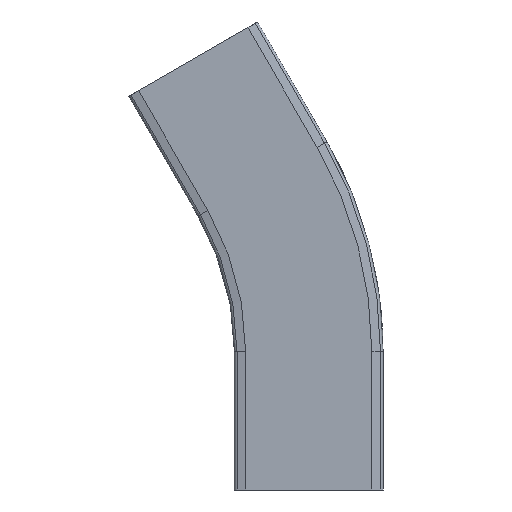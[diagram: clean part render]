
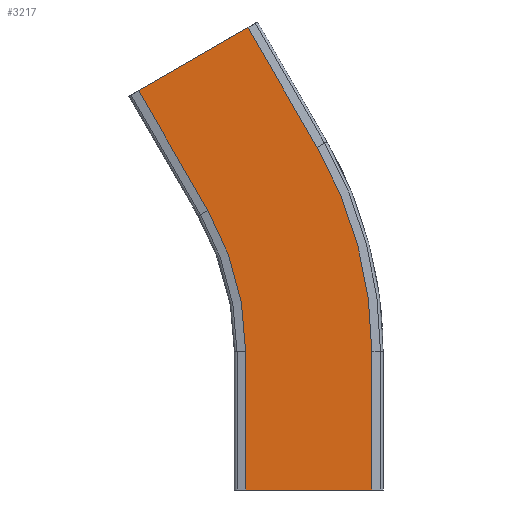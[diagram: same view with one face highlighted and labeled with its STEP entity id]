
A CAD part, front view. The second image highlights one B-rep face of the part: STEP entity #3217.
In plain terms, the highlighted planar face has unit normal (0, -1, 0).
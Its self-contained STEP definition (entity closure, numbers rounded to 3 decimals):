
#327=FACE_OUTER_BOUND('',#499,.T.);
#499=EDGE_LOOP('',(#2925,#2926,#2927,#2928,#2929,#2930,#2931,#2932));
#577=CIRCLE('',#3458,236.5);
#580=CIRCLE('',#3464,163.5);
#894=LINE('',#5553,#1236);
#899=LINE('',#5562,#1241);
#901=LINE('',#5567,#1243);
#916=LINE('',#5607,#1258);
#921=LINE('',#5618,#1263);
#922=LINE('',#5620,#1264);
#1236=VECTOR('',#4203,10.);
#1241=VECTOR('',#4210,10.);
#1243=VECTOR('',#4214,10.);
#1258=VECTOR('',#4255,10.);
#1263=VECTOR('',#4268,10.);
#1264=VECTOR('',#4271,10.);
#1544=VERTEX_POINT('',#5550);
#1545=VERTEX_POINT('',#5552);
#1548=VERTEX_POINT('',#5559);
#1549=VERTEX_POINT('',#5564);
#1559=VERTEX_POINT('',#5590);
#1561=VERTEX_POINT('',#5600);
#1562=VERTEX_POINT('',#5605);
#1564=VERTEX_POINT('',#5616);
#1988=EDGE_CURVE('',#1545,#1544,#894,.T.);
#1993=EDGE_CURVE('',#1545,#1548,#899,.T.);
#1995=EDGE_CURVE('',#1544,#1549,#901,.T.);
#2008=EDGE_CURVE('',#1549,#1559,#577,.T.);
#2014=EDGE_CURVE('',#1548,#1561,#580,.T.);
#2016=EDGE_CURVE('',#1559,#1562,#916,.T.);
#2021=EDGE_CURVE('',#1561,#1564,#921,.T.);
#2022=EDGE_CURVE('',#1562,#1564,#922,.T.);
#2925=ORIENTED_EDGE('',*,*,#2022,.T.);
#2926=ORIENTED_EDGE('',*,*,#2021,.F.);
#2927=ORIENTED_EDGE('',*,*,#2014,.F.);
#2928=ORIENTED_EDGE('',*,*,#1993,.F.);
#2929=ORIENTED_EDGE('',*,*,#1988,.T.);
#2930=ORIENTED_EDGE('',*,*,#1995,.T.);
#2931=ORIENTED_EDGE('',*,*,#2008,.T.);
#2932=ORIENTED_EDGE('',*,*,#2016,.T.);
#3050=PLANE('',#3470);
#3217=ADVANCED_FACE('',(#327),#3050,.T.);
#3458=AXIS2_PLACEMENT_3D('',#5592,#4235,#4236);
#3464=AXIS2_PLACEMENT_3D('',#5603,#4250,#4251);
#3470=AXIS2_PLACEMENT_3D('',#5619,#4269,#4270);
#4203=DIRECTION('',(1.,0.,0.));
#4210=DIRECTION('',(0.,0.,1.));
#4214=DIRECTION('',(0.,0.,1.));
#4235=DIRECTION('center_axis',(0.,-1.,0.));
#4236=DIRECTION('ref_axis',(1.,0.,0.));
#4250=DIRECTION('center_axis',(0.,-1.,0.));
#4251=DIRECTION('ref_axis',(1.,0.,0.));
#4255=DIRECTION('',(-0.5,0.,0.866));
#4268=DIRECTION('',(-0.5,0.,0.866));
#4269=DIRECTION('center_axis',(0.,-1.,0.));
#4270=DIRECTION('ref_axis',(0.5,0.,-0.866));
#4271=DIRECTION('',(-0.866,0.,-0.5));
#5550=CARTESIAN_POINT('',(36.5,-11.,0.));
#5552=CARTESIAN_POINT('',(-36.5,-11.,0.));
#5553=CARTESIAN_POINT('',(-36.5,-11.,0.));
#5559=CARTESIAN_POINT('',(-36.5,-11.,80.));
#5562=CARTESIAN_POINT('',(-36.5,-11.,0.));
#5564=CARTESIAN_POINT('',(36.5,-11.,80.));
#5567=CARTESIAN_POINT('',(36.5,-11.,0.));
#5590=CARTESIAN_POINT('',(4.815,-11.,198.25));
#5592=CARTESIAN_POINT('Origin',(-200.,-11.,80.));
#5600=CARTESIAN_POINT('',(-58.405,-11.,161.75));
#5603=CARTESIAN_POINT('Origin',(-200.,-11.,80.));
#5605=CARTESIAN_POINT('',(-35.185,-11.,267.532));
#5607=CARTESIAN_POINT('',(97.175,-11.,38.278));
#5616=CARTESIAN_POINT('',(-98.405,-11.,231.032));
#5618=CARTESIAN_POINT('',(33.955,-11.,1.778));
#5619=CARTESIAN_POINT('Origin',(97.175,-11.,38.278));
#5620=CARTESIAN_POINT('',(-49.691,-11.,259.157));
